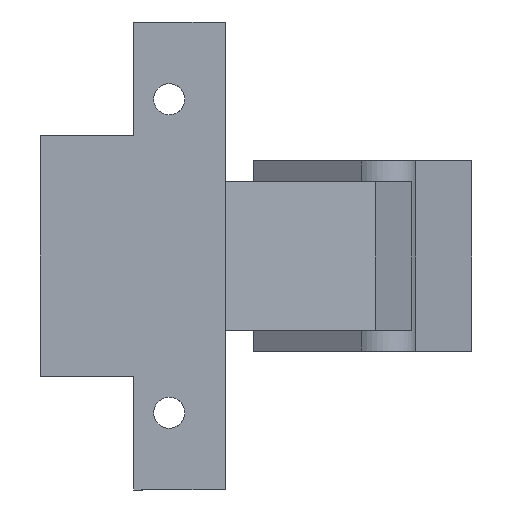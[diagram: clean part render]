
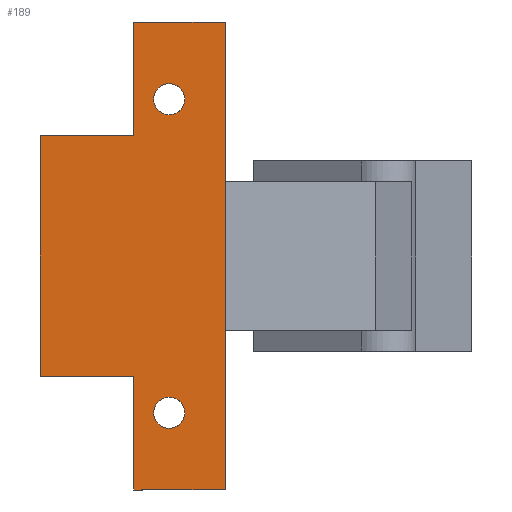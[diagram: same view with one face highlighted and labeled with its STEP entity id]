
A CAD part, front view. The second image highlights one B-rep face of the part: STEP entity #189.
In plain terms, the highlighted planar face has unit normal (0, -1, 0).
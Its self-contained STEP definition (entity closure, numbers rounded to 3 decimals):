
#50 = LINE ( 'NONE', #938, #78 ) ;
#78 = VECTOR ( 'NONE', #1058, 1000. ) ;
#117 = CIRCLE ( 'NONE', #326, 1.39 ) ;
#189 = ADVANCED_FACE ( 'NONE', ( #641, #301, #644 ), #1786, .F. ) ;
#218 = EDGE_LOOP ( 'NONE', ( #574, #573, #572, #571, #570, #569, #568, #567 ) ) ;
#225 = EDGE_LOOP ( 'NONE', ( #576, #575 ) ) ;
#245 = EDGE_LOOP ( 'NONE', ( #578, #577 ) ) ;
#284 = LINE ( 'NONE', #1934, #797 ) ;
#301 = FACE_BOUND ( 'NONE', #225, .T. ) ;
#309 = AXIS2_PLACEMENT_3D ( 'NONE', #1536, #1923, #1922 ) ;
#319 = AXIS2_PLACEMENT_3D ( 'NONE', #1128, #1216, #1202 ) ;
#326 = AXIS2_PLACEMENT_3D ( 'NONE', #972, #1167, #1177 ) ;
#351 = AXIS2_PLACEMENT_3D ( 'NONE', #1803, #1802, #1801 ) ;
#377 = AXIS2_PLACEMENT_3D ( 'NONE', #1973, #1976, #1991 ) ;
#567 = ORIENTED_EDGE ( 'NONE', *, *, #1374, .T. ) ;
#568 = ORIENTED_EDGE ( 'NONE', *, *, #1378, .T. ) ;
#569 = ORIENTED_EDGE ( 'NONE', *, *, #1365, .F. ) ;
#570 = ORIENTED_EDGE ( 'NONE', *, *, #1395, .T. ) ;
#571 = ORIENTED_EDGE ( 'NONE', *, *, #1452, .T. ) ;
#572 = ORIENTED_EDGE ( 'NONE', *, *, #1373, .T. ) ;
#573 = ORIENTED_EDGE ( 'NONE', *, *, #1392, .F. ) ;
#574 = ORIENTED_EDGE ( 'NONE', *, *, #1385, .F. ) ;
#575 = ORIENTED_EDGE ( 'NONE', *, *, #1508, .F. ) ;
#576 = ORIENTED_EDGE ( 'NONE', *, *, #1390, .F. ) ;
#577 = ORIENTED_EDGE ( 'NONE', *, *, #1471, .F. ) ;
#578 = ORIENTED_EDGE ( 'NONE', *, *, #1397, .F. ) ;
#641 = FACE_BOUND ( 'NONE', #245, .T. ) ;
#644 = FACE_OUTER_BOUND ( 'NONE', #218, .T. ) ;
#797 = VECTOR ( 'NONE', #1935, 1000. ) ;
#799 = LINE ( 'NONE', #1900, #810 ) ;
#808 = LINE ( 'NONE', #1950, #812 ) ;
#810 = VECTOR ( 'NONE', #1947, 1000. ) ;
#811 = VECTOR ( 'NONE', #1927, 1000. ) ;
#812 = VECTOR ( 'NONE', #1930, 1000. ) ;
#819 = LINE ( 'NONE', #1953, #811 ) ;
#831 = LINE ( 'NONE', #1540, #832 ) ;
#832 = VECTOR ( 'NONE', #1972, 1000. ) ;
#840 = CIRCLE ( 'NONE', #309, 1.39 ) ;
#841 = LINE ( 'NONE', #1986, #842 ) ;
#842 = VECTOR ( 'NONE', #1987, 1000. ) ;
#847 = LINE ( 'NONE', #1969, #848 ) ;
#848 = VECTOR ( 'NONE', #1992, 1000. ) ;
#853 = CIRCLE ( 'NONE', #377, 1.39 ) ;
#938 = CARTESIAN_POINT ( 'NONE',  ( 0., -11.7, 10.75 ) ) ;
#972 = CARTESIAN_POINT ( 'NONE',  ( -5., -11.7, -14. ) ) ;
#1009 = CARTESIAN_POINT ( 'NONE',  ( -8.18, -11.7, 20.9 ) ) ;
#1013 = CARTESIAN_POINT ( 'NONE',  ( -5., -11.7, -15.39 ) ) ;
#1030 = CARTESIAN_POINT ( 'NONE',  ( -16.5, -11.7, -10.75 ) ) ;
#1033 = CARTESIAN_POINT ( 'NONE',  ( -8.18, -11.7, 10.75 ) ) ;
#1034 = CARTESIAN_POINT ( 'NONE',  ( -5., -11.7, 15.39 ) ) ;
#1058 = DIRECTION ( 'NONE',  ( -1., 0., 0. ) ) ;
#1087 = CARTESIAN_POINT ( 'NONE',  ( -5., -11.7, 12.61 ) ) ;
#1097 = CARTESIAN_POINT ( 'NONE',  ( -16.5, -11.7, 10.75 ) ) ;
#1110 = CARTESIAN_POINT ( 'NONE',  ( -8.18, -11.7, -20.9 ) ) ;
#1114 = CARTESIAN_POINT ( 'NONE',  ( -5., -11.7, -12.61 ) ) ;
#1122 = CARTESIAN_POINT ( 'NONE',  ( 0., -11.7, 20.9 ) ) ;
#1125 = CARTESIAN_POINT ( 'NONE',  ( 0., -11.7, -20.9 ) ) ;
#1128 = CARTESIAN_POINT ( 'NONE',  ( -5., -11.7, 14. ) ) ;
#1167 = DIRECTION ( 'NONE',  ( 0., -1., 0. ) ) ;
#1177 = DIRECTION ( 'NONE',  ( 0., 0., 1. ) ) ;
#1202 = DIRECTION ( 'NONE',  ( 0., 0., 1. ) ) ;
#1216 = DIRECTION ( 'NONE',  ( 0., -1., 0. ) ) ;
#1242 = CARTESIAN_POINT ( 'NONE',  ( -8.18, -11.7, -10.75 ) ) ;
#1314 = CIRCLE ( 'NONE', #319, 1.39 ) ;
#1365 = EDGE_CURVE ( 'NONE', #1610, #1627, #284, .T. ) ;
#1373 = EDGE_CURVE ( 'NONE', #1561, #1625, #799, .T. ) ;
#1374 = EDGE_CURVE ( 'NONE', #1568, #1565, #808, .T. ) ;
#1378 = EDGE_CURVE ( 'NONE', #1610, #1568, #819, .T. ) ;
#1385 = EDGE_CURVE ( 'NONE', #1564, #1565, #831, .T. ) ;
#1390 = EDGE_CURVE ( 'NONE', #1587, #1615, #840, .T. ) ;
#1392 = EDGE_CURVE ( 'NONE', #1561, #1564, #841, .T. ) ;
#1395 = EDGE_CURVE ( 'NONE', #1611, #1627, #847, .T. ) ;
#1397 = EDGE_CURVE ( 'NONE', #1578, #1595, #853, .T. ) ;
#1452 = EDGE_CURVE ( 'NONE', #1625, #1611, #50, .T. ) ;
#1471 = EDGE_CURVE ( 'NONE', #1595, #1578, #117, .T. ) ;
#1508 = EDGE_CURVE ( 'NONE', #1615, #1587, #1314, .T. ) ;
#1536 = CARTESIAN_POINT ( 'NONE',  ( -5., -11.7, 14. ) ) ;
#1540 = CARTESIAN_POINT ( 'NONE',  ( 0., -11.7, 10.75 ) ) ;
#1561 = VERTEX_POINT ( 'NONE', #1009 ) ;
#1564 = VERTEX_POINT ( 'NONE', #1122 ) ;
#1565 = VERTEX_POINT ( 'NONE', #1125 ) ;
#1568 = VERTEX_POINT ( 'NONE', #1110 ) ;
#1578 = VERTEX_POINT ( 'NONE', #1114 ) ;
#1587 = VERTEX_POINT ( 'NONE', #1034 ) ;
#1595 = VERTEX_POINT ( 'NONE', #1013 ) ;
#1610 = VERTEX_POINT ( 'NONE', #1242 ) ;
#1611 = VERTEX_POINT ( 'NONE', #1097 ) ;
#1615 = VERTEX_POINT ( 'NONE', #1087 ) ;
#1625 = VERTEX_POINT ( 'NONE', #1033 ) ;
#1627 = VERTEX_POINT ( 'NONE', #1030 ) ;
#1786 = PLANE ( 'NONE',  #351 ) ;
#1801 = DIRECTION ( 'NONE',  ( -1., 0., 0. ) ) ;
#1802 = DIRECTION ( 'NONE',  ( 0., 1., 0. ) ) ;
#1803 = CARTESIAN_POINT ( 'NONE',  ( 0., -11.7, 10.75 ) ) ;
#1900 = CARTESIAN_POINT ( 'NONE',  ( -8.18, -11.7, 20.9 ) ) ;
#1922 = DIRECTION ( 'NONE',  ( 0., 0., 1. ) ) ;
#1923 = DIRECTION ( 'NONE',  ( 0., -1., 0. ) ) ;
#1927 = DIRECTION ( 'NONE',  ( 0., 0., -1. ) ) ;
#1930 = DIRECTION ( 'NONE',  ( 1., 0., 0. ) ) ;
#1934 = CARTESIAN_POINT ( 'NONE',  ( 0., -11.7, -10.75 ) ) ;
#1935 = DIRECTION ( 'NONE',  ( -1., 0., 0. ) ) ;
#1947 = DIRECTION ( 'NONE',  ( 0., 0., -1. ) ) ;
#1950 = CARTESIAN_POINT ( 'NONE',  ( 0., -11.7, -20.9 ) ) ;
#1953 = CARTESIAN_POINT ( 'NONE',  ( -8.18, -11.7, 20.9 ) ) ;
#1969 = CARTESIAN_POINT ( 'NONE',  ( -16.5, -11.7, 10.75 ) ) ;
#1972 = DIRECTION ( 'NONE',  ( 0., 0., -1. ) ) ;
#1973 = CARTESIAN_POINT ( 'NONE',  ( -5., -11.7, -14. ) ) ;
#1976 = DIRECTION ( 'NONE',  ( 0., -1., 0. ) ) ;
#1986 = CARTESIAN_POINT ( 'NONE',  ( 0., -11.7, 20.9 ) ) ;
#1987 = DIRECTION ( 'NONE',  ( 1., 0., 0. ) ) ;
#1991 = DIRECTION ( 'NONE',  ( 0., 0., 1. ) ) ;
#1992 = DIRECTION ( 'NONE',  ( 0., 0., -1. ) ) ;
